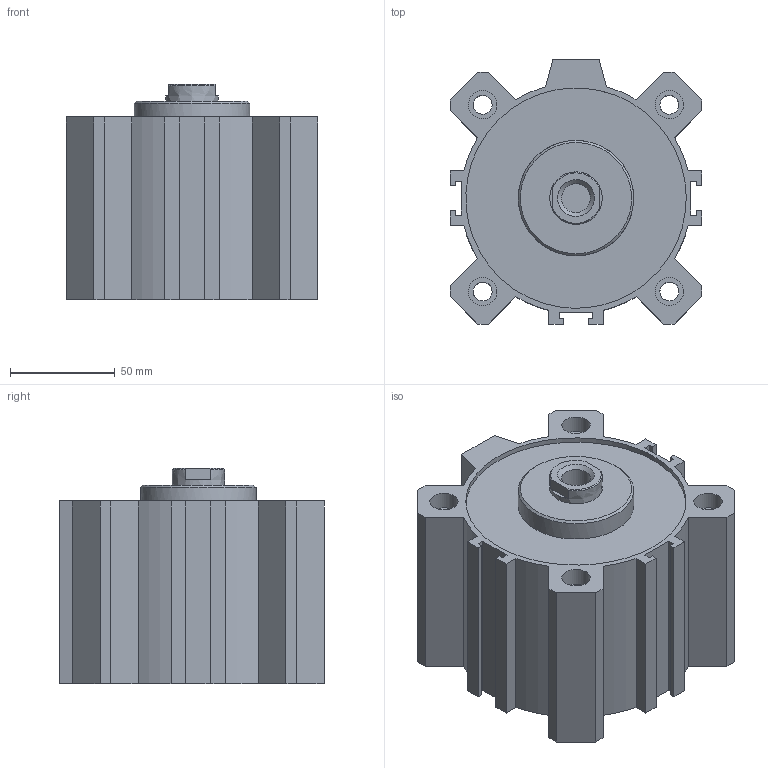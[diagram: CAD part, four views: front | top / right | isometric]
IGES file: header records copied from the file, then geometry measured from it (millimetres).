
Global section: file name: 1511_100_0035; native system: Autodesk Inventor 2014; preprocessor: unknown; author: A. Manieri; date: 20160824.162558; units: millimetre
Bounding box: 120 x 126 x 102.5 mm (x, y, z)
Volume: 750707.8 mm3; surface area: 152925.3 mm2
Topology: 2 solids, 2 shells, 119 faces, 307 edges, 210 vertices
Faces by surface type: bspline 119
